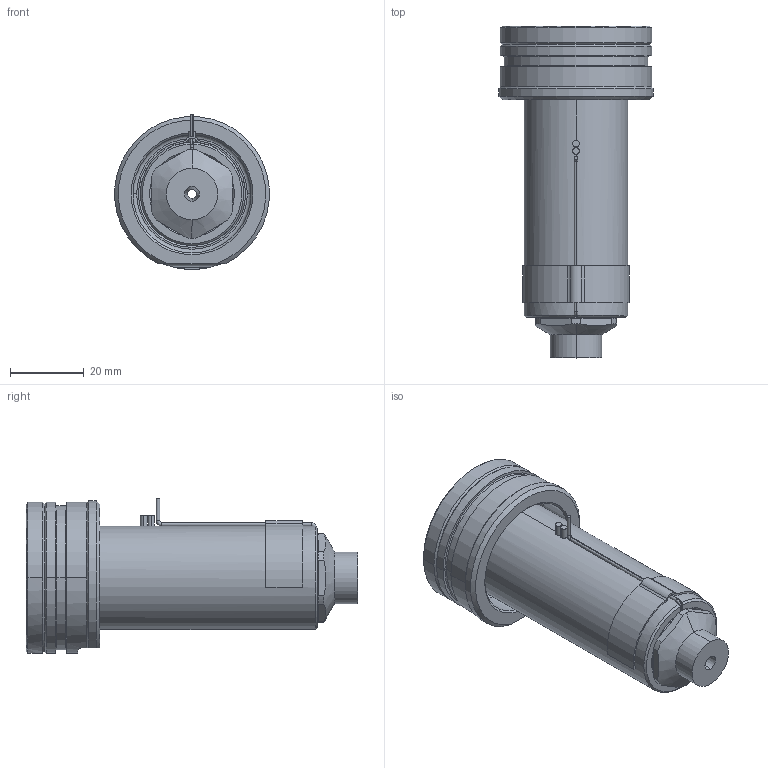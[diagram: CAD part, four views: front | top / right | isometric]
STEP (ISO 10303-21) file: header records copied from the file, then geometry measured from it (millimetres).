
FILE_DESCRIPTION((''),'2;1');
FILE_NAME('EO10_VG-ST_STD_070_SW','2024-02-19T12:45:38',('sundharh'),(''),'CREO PARAMETRIC BY PTC INC, 2023154','CREO PARAMETRIC BY PTC INC, 2023154','');
FILE_SCHEMA(('CONFIG_CONTROL_DESIGN'));
Length unit declared in the file: millimetre
Products named in the file (1): EO10_VG-ST_STD_070_SW
Bounding box: 41.85 x 90 x 42.02 mm (x, y, z)
Volume: 56571.6 mm3; surface area: 16586.5 mm2
Topology: 1 solids, 1 shells, 165 faces, 424 edges, 263 vertices
Faces by surface type: cylinder 63, plane 45, cone 33, torus 17, bspline 5, sphere 2
Entity records: 5734 total; most frequent: CARTESIAN_POINT 1630, DIRECTION 895, ORIENTED_EDGE 844, EDGE_CURVE 422, AXIS2_PLACEMENT_3D 369, VERTEX_POINT 263, CIRCLE 209, EDGE_LOOP 179
